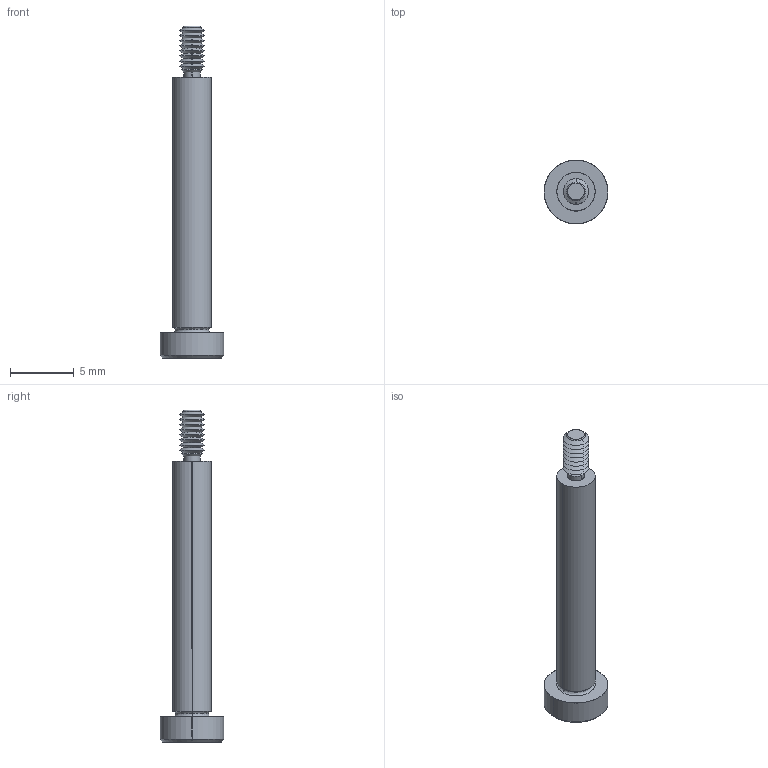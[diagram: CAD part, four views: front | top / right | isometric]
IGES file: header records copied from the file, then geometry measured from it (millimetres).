
Start section: SolidWorks IGES file using analytic representation for surfaces
Global section: file name: C:\Users\IanO\Documents\Temp Folder\GENERAL\SCREW REVISION\P0130_v2\P0130.T5_v2_20220106_IGES\P0130.030-020-T5.igs; native system: SolidWorks 2019; preprocessor: SolidWorks 2019; author: IanO; date: 220106.220300; units: millimetre
Bounding box: 5 x 5 x 26 mm (x, y, z)
Surface area: 304.8 mm2 (no closed solid volume)
Topology: 0 solids, 0 shells, 76 faces, 508 edges, 506 vertices
Faces by surface type: revolution 56, bspline 20
